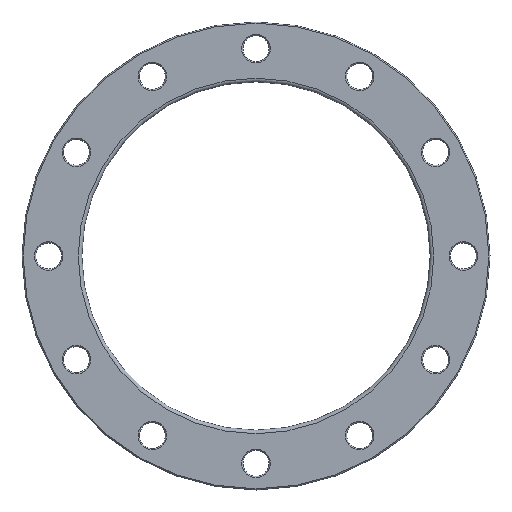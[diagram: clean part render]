
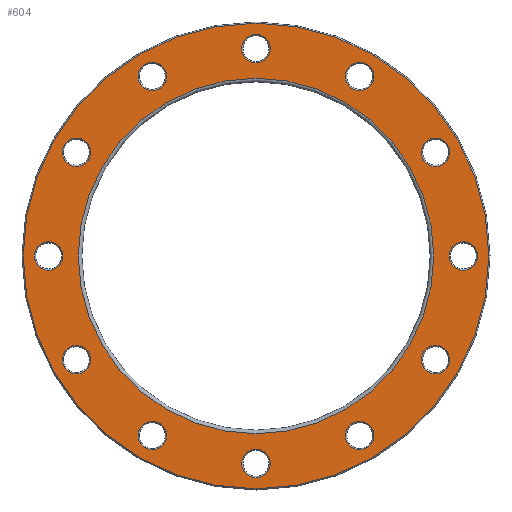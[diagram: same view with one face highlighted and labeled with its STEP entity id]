
A CAD part, front view. The second image highlights one B-rep face of the part: STEP entity #604.
In plain terms, the highlighted planar face has unit normal (0, -1, 0).
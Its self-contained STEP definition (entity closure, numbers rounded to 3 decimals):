
#23=PLANE('',#712);
#134=ORIENTED_EDGE('',*,*,#213,.T.);
#135=ORIENTED_EDGE('',*,*,#214,.T.);
#136=ORIENTED_EDGE('',*,*,#164,.T.);
#137=ORIENTED_EDGE('',*,*,#168,.T.);
#138=ORIENTED_EDGE('',*,*,#172,.T.);
#139=ORIENTED_EDGE('',*,*,#176,.T.);
#140=ORIENTED_EDGE('',*,*,#180,.T.);
#141=ORIENTED_EDGE('',*,*,#184,.T.);
#142=ORIENTED_EDGE('',*,*,#188,.T.);
#143=ORIENTED_EDGE('',*,*,#192,.T.);
#144=ORIENTED_EDGE('',*,*,#196,.T.);
#145=ORIENTED_EDGE('',*,*,#200,.T.);
#146=ORIENTED_EDGE('',*,*,#204,.T.);
#147=ORIENTED_EDGE('',*,*,#215,.T.);
#164=EDGE_CURVE('',#220,#220,#276,.T.);
#168=EDGE_CURVE('',#224,#224,#280,.T.);
#172=EDGE_CURVE('',#228,#228,#284,.T.);
#176=EDGE_CURVE('',#232,#232,#288,.T.);
#180=EDGE_CURVE('',#236,#236,#292,.T.);
#184=EDGE_CURVE('',#240,#240,#296,.T.);
#188=EDGE_CURVE('',#244,#244,#300,.T.);
#192=EDGE_CURVE('',#248,#248,#304,.T.);
#196=EDGE_CURVE('',#252,#252,#308,.T.);
#200=EDGE_CURVE('',#256,#256,#312,.T.);
#204=EDGE_CURVE('',#260,#260,#316,.T.);
#213=EDGE_CURVE('',#269,#269,#325,.F.);
#214=EDGE_CURVE('',#270,#270,#326,.T.);
#215=EDGE_CURVE('',#271,#271,#327,.T.);
#220=VERTEX_POINT('',#935);
#224=VERTEX_POINT('',#946);
#228=VERTEX_POINT('',#957);
#232=VERTEX_POINT('',#968);
#236=VERTEX_POINT('',#979);
#240=VERTEX_POINT('',#990);
#244=VERTEX_POINT('',#1001);
#248=VERTEX_POINT('',#1012);
#252=VERTEX_POINT('',#1023);
#256=VERTEX_POINT('',#1034);
#260=VERTEX_POINT('',#1045);
#269=VERTEX_POINT('',#1068);
#270=VERTEX_POINT('',#1070);
#271=VERTEX_POINT('',#1072);
#276=CIRCLE('',#629,12.);
#280=CIRCLE('',#636,12.);
#284=CIRCLE('',#643,12.);
#288=CIRCLE('',#650,12.);
#292=CIRCLE('',#657,12.);
#296=CIRCLE('',#664,12.);
#300=CIRCLE('',#671,12.);
#304=CIRCLE('',#678,12.);
#308=CIRCLE('',#685,12.);
#312=CIRCLE('',#692,12.);
#316=CIRCLE('',#699,12.);
#325=CIRCLE('',#713,196.5);
#326=CIRCLE('',#714,150.);
#327=CIRCLE('',#715,12.);
#414=EDGE_LOOP('',(#134));
#415=EDGE_LOOP('',(#135));
#416=EDGE_LOOP('',(#136));
#417=EDGE_LOOP('',(#137));
#418=EDGE_LOOP('',(#138));
#419=EDGE_LOOP('',(#139));
#420=EDGE_LOOP('',(#140));
#421=EDGE_LOOP('',(#141));
#422=EDGE_LOOP('',(#142));
#423=EDGE_LOOP('',(#143));
#424=EDGE_LOOP('',(#144));
#425=EDGE_LOOP('',(#145));
#426=EDGE_LOOP('',(#146));
#427=EDGE_LOOP('',(#147));
#526=FACE_BOUND('',#414,.T.);
#527=FACE_BOUND('',#415,.T.);
#528=FACE_BOUND('',#416,.T.);
#529=FACE_BOUND('',#417,.T.);
#530=FACE_BOUND('',#418,.T.);
#531=FACE_BOUND('',#419,.T.);
#532=FACE_BOUND('',#420,.T.);
#533=FACE_BOUND('',#421,.T.);
#534=FACE_BOUND('',#422,.T.);
#535=FACE_BOUND('',#423,.T.);
#536=FACE_BOUND('',#424,.T.);
#537=FACE_BOUND('',#425,.T.);
#538=FACE_BOUND('',#426,.T.);
#539=FACE_BOUND('',#427,.T.);
#604=ADVANCED_FACE('',(#526,#527,#528,#529,#530,#531,#532,#533,#534,#535,
#536,#537,#538,#539),#23,.F.);
#629=AXIS2_PLACEMENT_3D('',#934,#735,#736);
#636=AXIS2_PLACEMENT_3D('',#945,#749,#750);
#643=AXIS2_PLACEMENT_3D('',#956,#763,#764);
#650=AXIS2_PLACEMENT_3D('',#967,#777,#778);
#657=AXIS2_PLACEMENT_3D('',#978,#791,#792);
#664=AXIS2_PLACEMENT_3D('',#989,#805,#806);
#671=AXIS2_PLACEMENT_3D('',#1000,#819,#820);
#678=AXIS2_PLACEMENT_3D('',#1011,#833,#834);
#685=AXIS2_PLACEMENT_3D('',#1022,#847,#848);
#692=AXIS2_PLACEMENT_3D('',#1033,#861,#862);
#699=AXIS2_PLACEMENT_3D('',#1044,#875,#876);
#712=AXIS2_PLACEMENT_3D('',#1066,#901,#902);
#713=AXIS2_PLACEMENT_3D('',#1067,#903,#904);
#714=AXIS2_PLACEMENT_3D('',#1069,#905,#906);
#715=AXIS2_PLACEMENT_3D('',#1071,#907,#908);
#735=DIRECTION('',(0.,1.,0.));
#736=DIRECTION('',(0.866,0.,0.5));
#749=DIRECTION('',(0.,1.,0.));
#750=DIRECTION('',(0.5,0.,0.866));
#763=DIRECTION('',(0.,1.,0.));
#764=DIRECTION('',(0.,0.,1.));
#777=DIRECTION('',(0.,1.,0.));
#778=DIRECTION('',(-0.5,0.,0.866));
#791=DIRECTION('',(0.,1.,0.));
#792=DIRECTION('',(-0.866,0.,0.5));
#805=DIRECTION('',(0.,1.,0.));
#806=DIRECTION('',(-1.,0.,0.));
#819=DIRECTION('',(0.,1.,0.));
#820=DIRECTION('',(-0.866,0.,-0.5));
#833=DIRECTION('',(0.,1.,0.));
#834=DIRECTION('',(-0.5,0.,-0.866));
#847=DIRECTION('',(0.,1.,0.));
#848=DIRECTION('',(0.,0.,-1.));
#861=DIRECTION('',(0.,1.,0.));
#862=DIRECTION('',(0.5,0.,-0.866));
#875=DIRECTION('',(0.,1.,0.));
#876=DIRECTION('',(0.866,0.,-0.5));
#901=DIRECTION('',(0.,1.,0.));
#902=DIRECTION('',(0.,0.,1.));
#903=DIRECTION('',(0.,1.,0.));
#904=DIRECTION('',(0.,0.,1.));
#905=DIRECTION('',(0.,1.,0.));
#906=DIRECTION('',(0.,0.,1.));
#907=DIRECTION('',(0.,1.,0.));
#908=DIRECTION('',(1.,0.,0.));
#934=CARTESIAN_POINT('',(-87.5,0.,151.554));
#935=CARTESIAN_POINT('',(-77.108,0.,157.554));
#945=CARTESIAN_POINT('',(-151.554,0.,87.5));
#946=CARTESIAN_POINT('',(-145.554,0.,97.892));
#956=CARTESIAN_POINT('',(-175.,0.,0.));
#957=CARTESIAN_POINT('',(-175.,0.,12.));
#967=CARTESIAN_POINT('',(-151.554,0.,-87.5));
#968=CARTESIAN_POINT('',(-157.554,0.,-77.108));
#978=CARTESIAN_POINT('',(-87.5,0.,-151.554));
#979=CARTESIAN_POINT('',(-97.892,0.,-145.554));
#989=CARTESIAN_POINT('',(0.,0.,-175.));
#990=CARTESIAN_POINT('',(-12.,0.,-175.));
#1000=CARTESIAN_POINT('',(87.5,0.,-151.554));
#1001=CARTESIAN_POINT('',(77.108,0.,-157.554));
#1011=CARTESIAN_POINT('',(151.554,0.,-87.5));
#1012=CARTESIAN_POINT('',(145.554,0.,-97.892));
#1022=CARTESIAN_POINT('',(175.,0.,0.));
#1023=CARTESIAN_POINT('',(175.,0.,-12.));
#1033=CARTESIAN_POINT('',(151.554,0.,87.5));
#1034=CARTESIAN_POINT('',(157.554,0.,77.108));
#1044=CARTESIAN_POINT('',(87.5,0.,151.554));
#1045=CARTESIAN_POINT('',(97.892,0.,145.554));
#1066=CARTESIAN_POINT('',(0.,0.,0.));
#1067=CARTESIAN_POINT('',(0.,0.,0.));
#1068=CARTESIAN_POINT('',(0.,0.,196.5));
#1069=CARTESIAN_POINT('',(0.,0.,0.));
#1070=CARTESIAN_POINT('',(0.,0.,150.));
#1071=CARTESIAN_POINT('',(0.,0.,175.));
#1072=CARTESIAN_POINT('',(12.,0.,175.));
